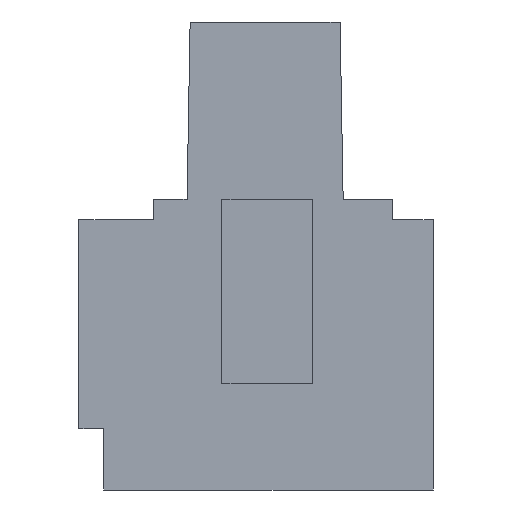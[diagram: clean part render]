
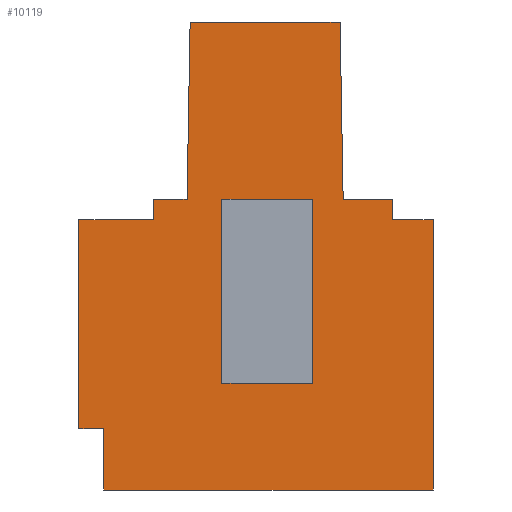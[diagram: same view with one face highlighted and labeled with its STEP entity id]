
A CAD part, left-side view. The second image highlights one B-rep face of the part: STEP entity #10119.
In plain terms, the highlighted planar face has unit normal (-1, 0, 0).
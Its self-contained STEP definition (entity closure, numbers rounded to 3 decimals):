
#2=DIRECTION('',(0.,-0.017,-1.));
#3=VECTOR('',#2,7.801);
#4=CARTESIAN_POINT('',(0.,4.1,20.6));
#5=LINE('',#4,#3);
#6=DIRECTION('',(0.,-1.,0.));
#7=VECTOR('',#6,2.164);
#8=CARTESIAN_POINT('',(0.,3.964,12.8));
#9=LINE('',#8,#7);
#10=DIRECTION('',(0.,0.,-1.));
#11=VECTOR('',#10,0.9);
#12=CARTESIAN_POINT('',(0.,1.8,12.8));
#13=LINE('',#12,#11);
#14=DIRECTION('',(0.,-1.,0.));
#15=VECTOR('',#14,1.8);
#16=CARTESIAN_POINT('',(0.,1.8,11.9));
#17=LINE('',#16,#15);
#18=DIRECTION('',(0.,0.,-1.));
#19=VECTOR('',#18,11.9);
#20=CARTESIAN_POINT('',(0.,0.,11.9));
#21=LINE('',#20,#19);
#22=DIRECTION('',(0.,1.,0.));
#23=VECTOR('',#22,14.5);
#24=CARTESIAN_POINT('',(0.,0.,0.));
#25=LINE('',#24,#23);
#26=DIRECTION('',(0.,0.,1.));
#27=VECTOR('',#26,2.7);
#28=CARTESIAN_POINT('',(0.,14.5,0.));
#29=LINE('',#28,#27);
#30=DIRECTION('',(0.,1.,0.));
#31=VECTOR('',#30,1.1);
#32=CARTESIAN_POINT('',(0.,14.5,2.7));
#33=LINE('',#32,#31);
#34=DIRECTION('',(0.,0.,1.));
#35=VECTOR('',#34,9.2);
#36=CARTESIAN_POINT('',(0.,15.6,2.7));
#37=LINE('',#36,#35);
#38=DIRECTION('',(0.,-1.,0.));
#39=VECTOR('',#38,3.3);
#40=CARTESIAN_POINT('',(0.,15.6,11.9));
#41=LINE('',#40,#39);
#42=DIRECTION('',(0.,0.,1.));
#43=VECTOR('',#42,0.9);
#44=CARTESIAN_POINT('',(0.,12.3,11.9));
#45=LINE('',#44,#43);
#46=DIRECTION('',(0.,-1.,0.));
#47=VECTOR('',#46,1.464);
#48=CARTESIAN_POINT('',(0.,12.3,12.8));
#49=LINE('',#48,#47);
#50=DIRECTION('',(0.,-0.017,1.));
#51=VECTOR('',#50,7.801);
#52=CARTESIAN_POINT('',(0.,10.836,12.8));
#53=LINE('',#52,#51);
#54=DIRECTION('',(0.,-1.,0.));
#55=VECTOR('',#54,6.6);
#56=CARTESIAN_POINT('',(0.,10.7,20.6));
#57=LINE('',#56,#55);
#58=DIRECTION('',(0.,-1.,0.));
#59=VECTOR('',#58,4.);
#60=CARTESIAN_POINT('',(0.,9.3,12.8));
#61=LINE('',#60,#59);
#62=DIRECTION('',(0.,0.,1.));
#63=VECTOR('',#62,8.1);
#64=CARTESIAN_POINT('',(0.,9.3,4.7));
#65=LINE('',#64,#63);
#66=DIRECTION('',(0.,1.,0.));
#67=VECTOR('',#66,4.);
#68=CARTESIAN_POINT('',(0.,5.3,4.7));
#69=LINE('',#68,#67);
#70=DIRECTION('',(0.,0.,-1.));
#71=VECTOR('',#70,8.1);
#72=CARTESIAN_POINT('',(0.,5.3,12.8));
#73=LINE('',#72,#71);
#7778=CARTESIAN_POINT('',(0.,4.1,20.6));
#7779=CARTESIAN_POINT('',(0.,3.964,12.8));
#7780=VERTEX_POINT('',#7778);
#7781=VERTEX_POINT('',#7779);
#7782=CARTESIAN_POINT('',(0.,1.8,12.8));
#7783=VERTEX_POINT('',#7782);
#7784=CARTESIAN_POINT('',(0.,1.8,11.9));
#7785=VERTEX_POINT('',#7784);
#7786=CARTESIAN_POINT('',(0.,0.,11.9));
#7787=VERTEX_POINT('',#7786);
#7788=CARTESIAN_POINT('',(0.,0.,0.));
#7789=VERTEX_POINT('',#7788);
#7790=CARTESIAN_POINT('',(0.,14.5,0.));
#7791=VERTEX_POINT('',#7790);
#7792=CARTESIAN_POINT('',(0.,14.5,2.7));
#7793=VERTEX_POINT('',#7792);
#7794=CARTESIAN_POINT('',(0.,15.6,2.7));
#7795=VERTEX_POINT('',#7794);
#7796=CARTESIAN_POINT('',(0.,15.6,11.9));
#7797=VERTEX_POINT('',#7796);
#7798=CARTESIAN_POINT('',(0.,12.3,11.9));
#7799=VERTEX_POINT('',#7798);
#7800=CARTESIAN_POINT('',(0.,12.3,12.8));
#7801=VERTEX_POINT('',#7800);
#7802=CARTESIAN_POINT('',(0.,10.836,12.8));
#7803=VERTEX_POINT('',#7802);
#7804=CARTESIAN_POINT('',(0.,10.7,20.6));
#7805=VERTEX_POINT('',#7804);
#9146=CARTESIAN_POINT('',(0.,9.3,12.8));
#9147=CARTESIAN_POINT('',(0.,5.3,12.8));
#9148=VERTEX_POINT('',#9146);
#9149=VERTEX_POINT('',#9147);
#9150=CARTESIAN_POINT('',(0.,5.3,4.7));
#9151=VERTEX_POINT('',#9150);
#9152=CARTESIAN_POINT('',(0.,9.3,4.7));
#9153=VERTEX_POINT('',#9152);
#10074=CARTESIAN_POINT('',(0.,0.,0.));
#10075=DIRECTION('',(1.,0.,0.));
#10076=DIRECTION('',(0.,0.,-1.));
#10077=AXIS2_PLACEMENT_3D('',#10074,#10075,#10076);
#10078=PLANE('',#10077);
#10080=ORIENTED_EDGE('',*,*,#10079,.T.);
#10082=ORIENTED_EDGE('',*,*,#10081,.T.);
#10084=ORIENTED_EDGE('',*,*,#10083,.T.);
#10086=ORIENTED_EDGE('',*,*,#10085,.T.);
#10088=ORIENTED_EDGE('',*,*,#10087,.T.);
#10090=ORIENTED_EDGE('',*,*,#10089,.T.);
#10092=ORIENTED_EDGE('',*,*,#10091,.T.);
#10094=ORIENTED_EDGE('',*,*,#10093,.T.);
#10096=ORIENTED_EDGE('',*,*,#10095,.T.);
#10098=ORIENTED_EDGE('',*,*,#10097,.T.);
#10100=ORIENTED_EDGE('',*,*,#10099,.T.);
#10102=ORIENTED_EDGE('',*,*,#10101,.T.);
#10104=ORIENTED_EDGE('',*,*,#10103,.T.);
#10106=ORIENTED_EDGE('',*,*,#10105,.T.);
#10107=EDGE_LOOP('',(#10080,#10082,#10084,#10086,#10088,#10090,#10092,#10094,
#10096,#10098,#10100,#10102,#10104,#10106));
#10108=FACE_OUTER_BOUND('',#10107,.F.);
#10110=ORIENTED_EDGE('',*,*,#10109,.F.);
#10112=ORIENTED_EDGE('',*,*,#10111,.F.);
#10114=ORIENTED_EDGE('',*,*,#10113,.F.);
#10116=ORIENTED_EDGE('',*,*,#10115,.F.);
#10117=EDGE_LOOP('',(#10110,#10112,#10114,#10116));
#10118=FACE_BOUND('',#10117,.F.);
#10119=ADVANCED_FACE('',(#10108,#10118),#10078,.F.);
#10079=EDGE_CURVE('',#7780,#7781,#5,.T.);
#10081=EDGE_CURVE('',#7781,#7783,#9,.T.);
#10083=EDGE_CURVE('',#7783,#7785,#13,.T.);
#10085=EDGE_CURVE('',#7785,#7787,#17,.T.);
#10087=EDGE_CURVE('',#7787,#7789,#21,.T.);
#10089=EDGE_CURVE('',#7789,#7791,#25,.T.);
#10091=EDGE_CURVE('',#7791,#7793,#29,.T.);
#10093=EDGE_CURVE('',#7793,#7795,#33,.T.);
#10095=EDGE_CURVE('',#7795,#7797,#37,.T.);
#10097=EDGE_CURVE('',#7797,#7799,#41,.T.);
#10099=EDGE_CURVE('',#7799,#7801,#45,.T.);
#10101=EDGE_CURVE('',#7801,#7803,#49,.T.);
#10103=EDGE_CURVE('',#7803,#7805,#53,.T.);
#10105=EDGE_CURVE('',#7805,#7780,#57,.T.);
#10109=EDGE_CURVE('',#9148,#9149,#61,.T.);
#10111=EDGE_CURVE('',#9153,#9148,#65,.T.);
#10113=EDGE_CURVE('',#9151,#9153,#69,.T.);
#10115=EDGE_CURVE('',#9149,#9151,#73,.T.);
